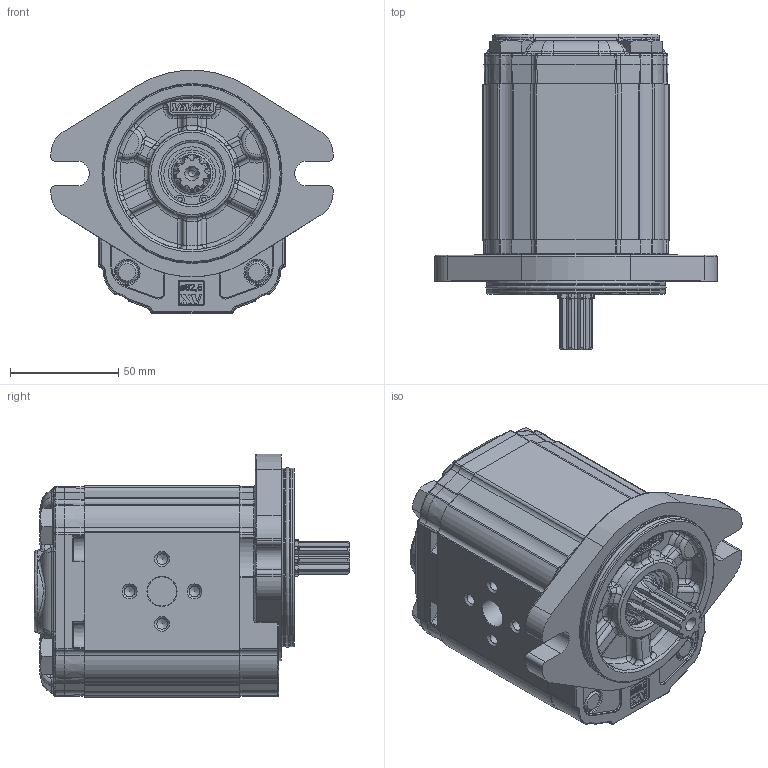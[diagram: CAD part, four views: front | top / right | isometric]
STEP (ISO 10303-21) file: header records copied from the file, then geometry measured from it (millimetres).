
FILE_DESCRIPTION(/* description */ ('Unknown'),/* implementation_level */ '2;1');
FILE_NAME(/* name */ 'X2P5351IPOA',/* time_stamp */ '2020-09-21T09:18:58+02:00',/* author */ ('Unknown'),/* organization */ ('Unknown'),/* preprocessor_version */ 'ST-DEVELOPER v16.7',/* originating_system */ 'DEX',/* authorisation */ $);
FILE_SCHEMA (('AUTOMOTIVE_DESIGN {1 0 10303 214 3 1 1}'));
Products named in the file (5): X2P5351IPOA; X2P51; 2I; X2POH72; XP219-A
Assembly tree (4 placements, depth 2):
  X2P5351IPOA
    X2P51
    2I
    X2POH72
    XP219-A
Bounding box: 130.38 x 145.7 x 112.3 mm (x, y, z)
Volume: 837875.1 mm3; surface area: 122327 mm2
Topology: 4 solids, 5 shells, 2223 faces, 5483 edges, 3330 vertices
Faces by surface type: cylinder 661, plane 591, bspline 570, torus 247, cone 116, sphere 38
Full cylindrical faces by diameter (mm): 2 x2, 4.917 x4, 6.647 x4, 10 x4, 10.5 x4, 11 x2, 11.5 x4, 13.5 x1, 16 x4, 17.42 x1, 17.48 x2, 18.724 x1, 20 x1, 20.595 x1, 21.741 x1, 25.834 x1, 28.56 x1, 28.57 x1, 28.8 x1, 30.4 x1, 79.6 x2, 82.5 x2
Entity records: 101724 total; most frequent: CARTESIAN_POINT 39174, ORIENTED_EDGE 10532, DIRECTION 8859, EDGE_CURVE 5266, AXIS2_PLACEMENT_3D 3383, VERTEX_POINT 3266, FACE_BOUND 2446, EDGE_LOOP 2436
